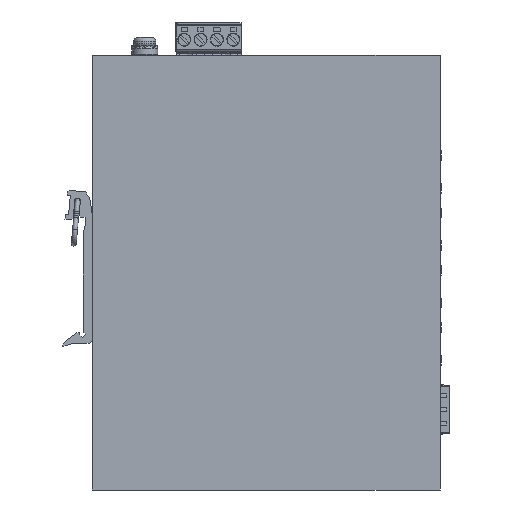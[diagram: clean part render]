
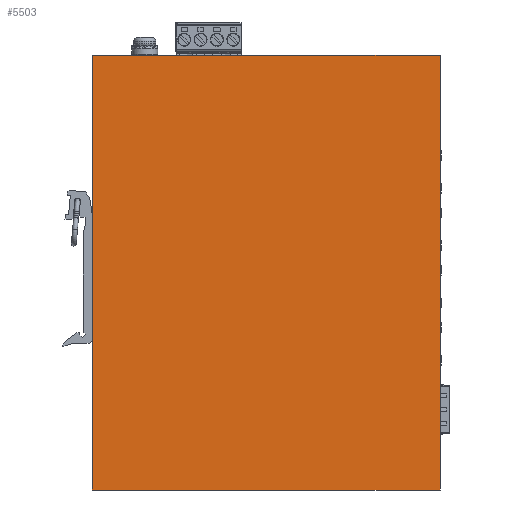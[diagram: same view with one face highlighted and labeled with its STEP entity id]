
A CAD part, left-side view. The second image highlights one B-rep face of the part: STEP entity #5503.
In plain terms, the highlighted planar face has unit normal (-1, 0, 0).
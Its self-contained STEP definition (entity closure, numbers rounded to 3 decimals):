
#326=CARTESIAN_POINT('',(0.,0.,135.));
#327=VERTEX_POINT('',#326);
#344=CARTESIAN_POINT('',(0.,108.,135.));
#345=VERTEX_POINT('',#344);
#352=CARTESIAN_POINT('',(0.,108.,135.));
#353=DIRECTION('',(0.,-1.,0.));
#354=VECTOR('',#353,108.);
#355=LINE('',#352,#354);
#356=EDGE_CURVE('',#345,#327,#355,.T.);
#2824=CARTESIAN_POINT('',(0.,108.,0.));
#2825=VERTEX_POINT('',#2824);
#2832=CARTESIAN_POINT('',(0.,108.,0.));
#2833=DIRECTION('',(0.,0.,1.));
#2834=VECTOR('',#2833,135.);
#2835=LINE('',#2832,#2834);
#2836=EDGE_CURVE('',#2825,#345,#2835,.T.);
#3286=CARTESIAN_POINT('',(0.,0.,0.));
#3287=VERTEX_POINT('',#3286);
#3288=CARTESIAN_POINT('',(0.,0.,0.));
#3289=DIRECTION('',(0.,0.,1.));
#3290=VECTOR('',#3289,135.);
#3291=LINE('',#3288,#3290);
#3292=EDGE_CURVE('',#3287,#327,#3291,.T.);
#5474=CARTESIAN_POINT('',(0.,108.,0.));
#5475=DIRECTION('',(0.,-1.,0.));
#5476=VECTOR('',#5475,108.);
#5477=LINE('',#5474,#5476);
#5478=EDGE_CURVE('',#2825,#3287,#5477,.T.);
#5492=CARTESIAN_POINT('',(0.,108.002,0.));
#5493=DIRECTION('',(1.,0.,-0.));
#5494=DIRECTION('',(0.,-1.,0.));
#5495=AXIS2_PLACEMENT_3D('',#5492,#5493,#5494);
#5496=PLANE('',#5495);
#5497=ORIENTED_EDGE('',*,*,#2836,.F.);
#5498=ORIENTED_EDGE('',*,*,#5478,.T.);
#5499=ORIENTED_EDGE('',*,*,#3292,.T.);
#5500=ORIENTED_EDGE('',*,*,#356,.F.);
#5501=EDGE_LOOP('',(#5497,#5498,#5499,#5500));
#5502=FACE_BOUND('',#5501,.T.);
#5503=ADVANCED_FACE('',(#5502),#5496,.F.);
